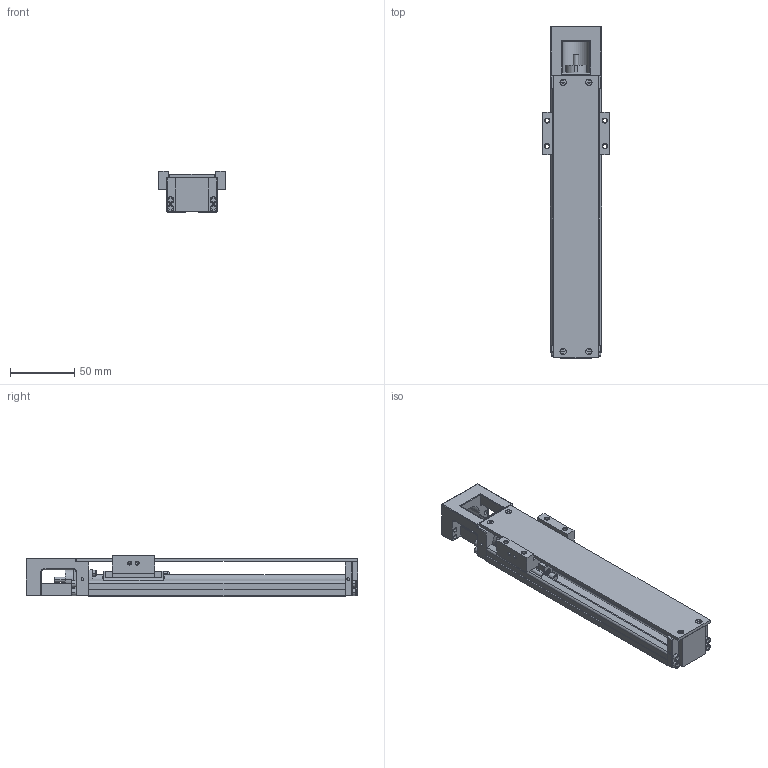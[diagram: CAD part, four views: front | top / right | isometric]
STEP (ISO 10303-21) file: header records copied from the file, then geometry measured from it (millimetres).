
FILE_DESCRIPTION(('no description'),'unknown implementation level');
FILE_NAME('KK4001P200A1F0C00_FILE_6.stp',' ',('HIWIN GmbH'),('CADClick - KiM GmbH - www.kimweb.de'),'unknown preprocess','ACIS','unknown authorization');
FILE_SCHEMA(('automotive_design'));
Length unit declared in the file: millimetre
Products named in the file (2): KK40_FILE; KK4001P200A1F0C00_FILE
Bounding box: 52 x 259 x 32 mm (x, y, z)
Volume: 155800.5 mm3; surface area: 75300.6 mm2
Topology: 2 solids, 18 shells, 989 faces, 2565 edges, 1628 vertices
Faces by surface type: plane 559, cylinder 322, cone 56, torus 46, sphere 6
Entity records: 60230 total; most frequent: CARTESIAN_POINT 6628, DIRECTION 5254, STYLED_ITEM 5172, PRESENTATION_STYLE_ASSIGNMENT 5172, COLOUR_RGB 5172, ORIENTED_EDGE 5106, EDGE_CURVE 2553, CURVE_STYLE 2553
